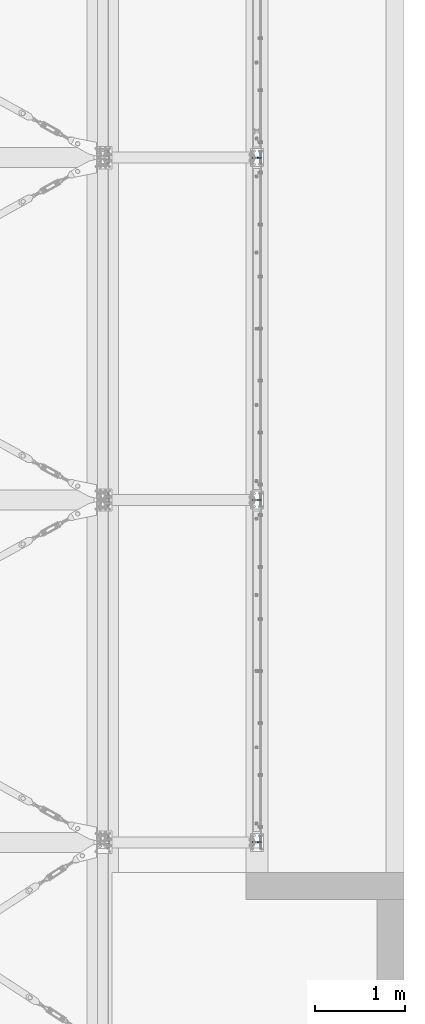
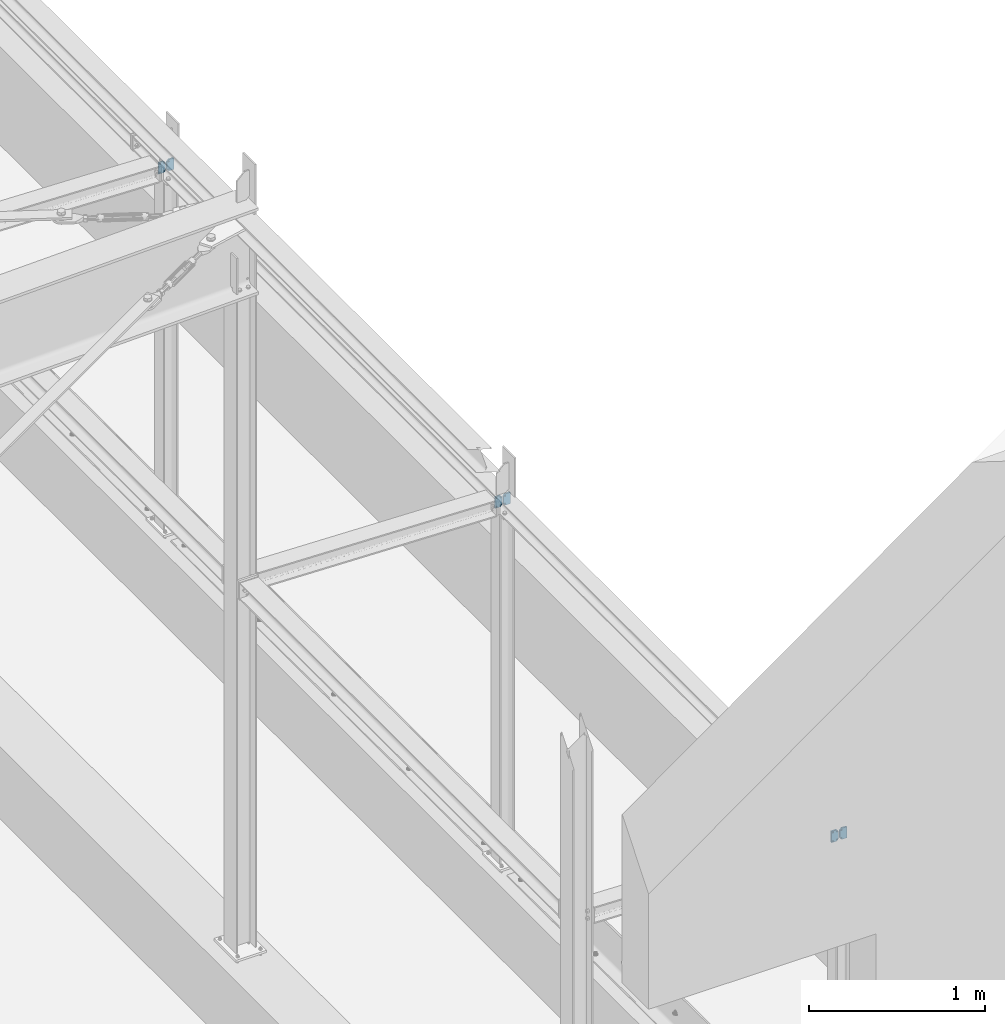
# One storey, part 73 of 476: 6 plates, 30 openings.
"""IFC2X3 building model written with IfcOpenShell, lengths in millimetres."""

from ifc_helpers import new_model, entity, si_unit, converted_unit, point, frame, frame_2d, origin, origin_with_axes, origin_2d_with_axis, place, context, project, spatial, polyline, circle_curve, line_curve, trimmed, segment, composite_curve, circle, outline, extrude, material, layer, layer_set, element, save


model = new_model("IFC2X3")

# Units and contexts
model_context = context("Model", 3, precision=1e-09, world=origin_with_axes())
ifc_project = project(units=[si_unit("LENGTHUNIT", "METRE", prefix="MILLI"), si_unit("AREAUNIT", "SQUARE_METRE"), si_unit("VOLUMEUNIT", "CUBIC_METRE"), converted_unit("PLANEANGLEUNIT", "DEGREE", entity("IfcPlaneAngleMeasure", 0.01745329), si_unit("PLANEANGLEUNIT", "RADIAN"), dimensions=[0, 0, 0, 0, 0, 0, 0])], contexts=[model_context])

# Site, building, storey
site_placement = place(None, origin_with_axes())
site = spatial("IfcSite", under=ifc_project, at=site_placement, Name="mKR Teilneubau & Sanierung BA1 - Ostfildern", CompositionType="ELEMENT")
building_placement = place(site_placement, origin_with_axes())
building = spatial("IfcBuilding", under=site, at=building_placement, Name="Struktur 1", CompositionType="ELEMENT")
storey_placement = place(building_placement, origin_with_axes())
storey = spatial("IfcBuildingStorey", under=building, at=storey_placement, Name="Default Storey", CompositionType="ELEMENT", Elevation=0.0)

# Plate, openings
ifc_material = material(Name="S235JR")
ifc_layer = layer(ifc_material, 10.0)
ifc_layer_set = layer_set([ifc_layer], Name="S235JR")
plate_1_placement = place(None, frame((23687.608764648, -13590.67387897, 3057.0), z_axis=(0.0, 1.0, 0.0), x_axis=(1.0, 0.0, 0.0)))
plate_1 = element("IfcPlate", 1, at=plate_1_placement, inside=storey, material=ifc_layer_set, Name="Stiffener#2", ObjectType="Stiffener#2", context=model_context, shape_type="SweptSolid", body=[
    extrude(outline(polyline([(0.0, 0.0), (46.0, 0.0), (46.0, 78.0), (0.0, 78.0), (0.0, 0.0)])), origin_with_axes(), (0.0, 0.0, 1.0), 10.0),
])
opening_1_placement = place(plate_1_placement, frame((0.0, 0.0, -0.01), z_axis=(0.0, 0.0, 1.0), x_axis=(1.0, 0.0, 0.0)))
element("IfcOpeningElement", 2, at=opening_1_placement, cuts=plate_1, ObjectType="Opening", context=model_context, shape_type="SweptSolid", body=[
    extrude(outline(composite_curve([segment(trimmed(line_curve((0.0, 0.0), (1.0, 0.0), 13.0), [point((0.0, 0.0))], [point((13.0, 0.0))], True, "CARTESIAN"), True, "CONTINUOUS"), segment(trimmed(circle_curve(frame_2d((13.0, 13.0), x_axis=(-1.0, 0.0)), 13.0), [point((13.0, 0.0))], [point((0.0, 13.0))], False, "CARTESIAN"), True, "CONTINUOUS"), segment(trimmed(line_curve((0.0, 13.0), (0.0, -1.0), 13.0), [point((0.0, 13.0))], [point((0.0, 0.0))], True, "CARTESIAN"), True, "CONTINUOUS")], self_intersect=False)), origin(), (0.0, 0.0, 1.0), 10.02),
])
opening_2_placement = place(plate_1_placement, frame((0.0, 0.0, -0.01), z_axis=(0.0, 0.0, 1.0), x_axis=(1.0, 0.0, 0.0)))
element("IfcOpeningElement", 3, at=opening_2_placement, cuts=plate_1, ObjectType="Opening", context=model_context, shape_type="SweptSolid", body=[
    extrude(outline(composite_curve([segment(trimmed(line_curve((0.0, 78.0), (0.0, -1.0), 13.0), [point((0.0, 78.0))], [point((0.0, 65.0))], True, "CARTESIAN"), True, "CONTINUOUS"), segment(trimmed(circle_curve(frame_2d((13.0, 65.0), x_axis=(-1.0, 0.0)), 13.0), [point((0.0, 65.0))], [point((13.0, 78.0))], False, "CARTESIAN"), True, "CONTINUOUS"), segment(trimmed(line_curve((13.0, 78.0), (-1.0, 0.0), 13.0), [point((13.0, 78.0))], [point((0.0, 78.0))], True, "CARTESIAN"), True, "CONTINUOUS")], self_intersect=False)), origin(), (0.0, 0.0, 1.0), 10.02),
])
opening_3_placement = place(plate_1_placement, frame((10.5, 67.0, -0.5), z_axis=(0.0, 0.0, 1.0), x_axis=(0.0, 1.0, 0.0)))
element("IfcOpeningElement", 4, at=opening_3_placement, cuts=plate_1, ObjectType="Opening", context=model_context, shape_type="SweptSolid", body=[
    extrude(circle(Radius=5.001, at=origin_2d_with_axis()), origin(), (0.0, 0.0, 1.0), 11.0),
])
opening_4_placement = place(plate_1_placement, frame((10.5, 11.0, -0.5), z_axis=(0.0, 0.0, 1.0), x_axis=(0.0, 1.0, 0.0)))
element("IfcOpeningElement", 5, at=opening_4_placement, cuts=plate_1, ObjectType="Opening", context=model_context, shape_type="SweptSolid", body=[
    extrude(circle(Radius=5.001, at=origin_2d_with_axis()), origin(), (0.0, 0.0, 1.0), 11.0),
])

plate_2_placement = place(None, frame((23679.608764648, -13580.67387897, 3057.0), z_axis=(0.0, -1.0, 0.0), x_axis=(-1.0, 0.0, 0.0)))
plate_2 = element("IfcPlate", 6, at=plate_2_placement, inside=storey, material=ifc_layer_set, Name="Stiffener#1", ObjectType="Stiffener#1", context=model_context, shape_type="SweptSolid", body=[
    extrude(outline(polyline([(0.0, 0.0), (46.0, 0.0), (46.0, 78.0), (0.0, 78.0), (0.0, 0.0)])), origin_with_axes(), (0.0, 0.0, 1.0), 10.0),
])
opening_5_placement = place(plate_2_placement, frame((0.0, 0.0, -0.01), z_axis=(0.0, 0.0, 1.0), x_axis=(1.0, 0.0, 0.0)))
element("IfcOpeningElement", 7, at=opening_5_placement, cuts=plate_2, ObjectType="Opening", context=model_context, shape_type="SweptSolid", body=[
    extrude(outline(composite_curve([segment(trimmed(line_curve((0.0, 0.0), (1.0, 0.0), 13.0), [point((0.0, 0.0))], [point((13.0, 0.0))], True, "CARTESIAN"), True, "CONTINUOUS"), segment(trimmed(circle_curve(frame_2d((13.0, 13.0), x_axis=(-1.0, 0.0)), 13.0), [point((13.0, 0.0))], [point((0.0, 13.0))], False, "CARTESIAN"), True, "CONTINUOUS"), segment(trimmed(line_curve((0.0, 13.0), (0.0, -1.0), 13.0), [point((0.0, 13.0))], [point((0.0, 0.0))], True, "CARTESIAN"), True, "CONTINUOUS")], self_intersect=False)), origin(), (0.0, 0.0, 1.0), 10.02),
])
opening_6_placement = place(plate_2_placement, frame((0.0, 0.0, -0.01), z_axis=(0.0, 0.0, 1.0), x_axis=(1.0, 0.0, 0.0)))
element("IfcOpeningElement", 8, at=opening_6_placement, cuts=plate_2, ObjectType="Opening", context=model_context, shape_type="SweptSolid", body=[
    extrude(outline(composite_curve([segment(trimmed(line_curve((0.0, 78.0), (0.0, -1.0), 13.0), [point((0.0, 78.0))], [point((0.0, 65.0))], True, "CARTESIAN"), True, "CONTINUOUS"), segment(trimmed(circle_curve(frame_2d((13.0, 65.0), x_axis=(-1.0, 0.0)), 13.0), [point((0.0, 65.0))], [point((13.0, 78.0))], False, "CARTESIAN"), True, "CONTINUOUS"), segment(trimmed(line_curve((13.0, 78.0), (-1.0, 0.0), 13.0), [point((13.0, 78.0))], [point((0.0, 78.0))], True, "CARTESIAN"), True, "CONTINUOUS")], self_intersect=False)), origin(), (0.0, 0.0, 1.0), 10.02),
])
opening_7_placement = place(plate_2_placement, frame((10.5, 11.0, 10.5), z_axis=(0.0, 0.0, -1.0), x_axis=(0.0, 1.0, 0.0)))
element("IfcOpeningElement", 9, at=opening_7_placement, cuts=plate_2, ObjectType="Opening", context=model_context, shape_type="SweptSolid", body=[
    extrude(circle(Radius=5.001, at=origin_2d_with_axis()), origin(), (0.0, 0.0, 1.0), 11.0),
])
opening_8_placement = place(plate_2_placement, frame((40.5, 11.0, 10.5), z_axis=(0.0, 0.0, -1.0), x_axis=(0.0, 1.0, 0.0)))
element("IfcOpeningElement", 10, at=opening_8_placement, cuts=plate_2, ObjectType="Opening", context=model_context, shape_type="SweptSolid", body=[
    extrude(circle(Radius=5.001, at=frame_2d((-3.0, -3.0), x_axis=(1.0, 0.0))), origin(), (0.0, 0.0, 1.0), 11.0),
])
opening_9_placement = place(plate_2_placement, frame((37.5, 75.001, 10.5), z_axis=(0.0, 0.0, 1.0), x_axis=(1.0, 0.0, 0.0)))
element("IfcOpeningElement", 11, at=opening_9_placement, cuts=plate_2, ObjectType="Opening", context=model_context, shape_type="SweptSolid", body=[
    extrude(circle(Radius=5.001, at=frame_2d((0.0, -5.001), x_axis=(1.0, 0.0))), origin(), (0.0, 0.0, -1.0), 11.0),
])
opening_10_placement = place(plate_2_placement, frame((10.5, 67.0, 10.5), z_axis=(0.0, 0.0, -1.0), x_axis=(0.0, 1.0, 0.0)))
element("IfcOpeningElement", 12, at=opening_10_placement, cuts=plate_2, ObjectType="Opening", context=model_context, shape_type="SweptSolid", body=[
    extrude(circle(Radius=5.001, at=origin_2d_with_axis()), origin(), (0.0, 0.0, 1.0), 11.0),
])

plate_3_placement = place(None, frame((23687.608764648, -17410.67387897, 3057.0), z_axis=(0.0, 1.0, 0.0), x_axis=(1.0, 0.0, 0.0)))
plate_3 = element("IfcPlate", 13, at=plate_3_placement, inside=storey, material=ifc_layer_set, Name="Stiffener#2", ObjectType="Stiffener#2", context=model_context, shape_type="SweptSolid", body=[
    extrude(outline(polyline([(0.0, 0.0), (46.0, 0.0), (46.0, 78.0), (0.0, 78.0), (0.0, 0.0)])), origin_with_axes(), (0.0, 0.0, 1.0), 10.0),
])
opening_11_placement = place(plate_3_placement, frame((0.0, 0.0, -0.01), z_axis=(0.0, 0.0, 1.0), x_axis=(1.0, 0.0, 0.0)))
element("IfcOpeningElement", 14, at=opening_11_placement, cuts=plate_3, ObjectType="Opening", context=model_context, shape_type="SweptSolid", body=[
    extrude(outline(composite_curve([segment(trimmed(line_curve((0.0, 0.0), (1.0, 0.0), 13.0), [point((0.0, 0.0))], [point((13.0, 0.0))], True, "CARTESIAN"), True, "CONTINUOUS"), segment(trimmed(circle_curve(frame_2d((13.0, 13.0), x_axis=(-1.0, 0.0)), 13.0), [point((13.0, 0.0))], [point((0.0, 13.0))], False, "CARTESIAN"), True, "CONTINUOUS"), segment(trimmed(line_curve((0.0, 13.0), (0.0, -1.0), 13.0), [point((0.0, 13.0))], [point((0.0, 0.0))], True, "CARTESIAN"), True, "CONTINUOUS")], self_intersect=False)), origin(), (0.0, 0.0, 1.0), 10.02),
])
opening_12_placement = place(plate_3_placement, frame((0.0, 0.0, -0.01), z_axis=(0.0, 0.0, 1.0), x_axis=(1.0, 0.0, 0.0)))
element("IfcOpeningElement", 15, at=opening_12_placement, cuts=plate_3, ObjectType="Opening", context=model_context, shape_type="SweptSolid", body=[
    extrude(outline(composite_curve([segment(trimmed(line_curve((0.0, 78.0), (0.0, -1.0), 13.0), [point((0.0, 78.0))], [point((0.0, 65.0))], True, "CARTESIAN"), True, "CONTINUOUS"), segment(trimmed(circle_curve(frame_2d((13.0, 65.0), x_axis=(-1.0, 0.0)), 13.0), [point((0.0, 65.0))], [point((13.0, 78.0))], False, "CARTESIAN"), True, "CONTINUOUS"), segment(trimmed(line_curve((13.0, 78.0), (-1.0, 0.0), 13.0), [point((13.0, 78.0))], [point((0.0, 78.0))], True, "CARTESIAN"), True, "CONTINUOUS")], self_intersect=False)), origin(), (0.0, 0.0, 1.0), 10.02),
])
opening_13_placement = place(plate_3_placement, frame((10.5, 11.0, -0.5), z_axis=(0.0, 0.0, 1.0), x_axis=(0.0, 1.0, 0.0)))
element("IfcOpeningElement", 16, at=opening_13_placement, cuts=plate_3, ObjectType="Opening", context=model_context, shape_type="SweptSolid", body=[
    extrude(circle(Radius=5.001, at=origin_2d_with_axis()), origin(), (0.0, 0.0, 1.0), 11.0),
])
opening_14_placement = place(plate_3_placement, frame((10.5, 67.0, -0.5), z_axis=(0.0, 0.0, 1.0), x_axis=(0.0, 1.0, 0.0)))
element("IfcOpeningElement", 17, at=opening_14_placement, cuts=plate_3, ObjectType="Opening", context=model_context, shape_type="SweptSolid", body=[
    extrude(circle(Radius=5.001, at=origin_2d_with_axis()), origin(), (0.0, 0.0, 1.0), 11.0),
])

plate_4_placement = place(None, frame((23679.608764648, -17400.67387897, 3057.0), z_axis=(0.0, -1.0, 0.0), x_axis=(-1.0, 0.0, 0.0)))
plate_4 = element("IfcPlate", 18, at=plate_4_placement, inside=storey, material=ifc_layer_set, Name="Stiffener#1", ObjectType="Stiffener#1", context=model_context, shape_type="SweptSolid", body=[
    extrude(outline(polyline([(0.0, 0.0), (46.0, 0.0), (46.0, 78.0), (0.0, 78.0), (0.0, 0.0)])), origin_with_axes(), (0.0, 0.0, 1.0), 10.0),
])
opening_15_placement = place(plate_4_placement, frame((0.0, 0.0, -0.01), z_axis=(0.0, 0.0, 1.0), x_axis=(1.0, 0.0, 0.0)))
element("IfcOpeningElement", 19, at=opening_15_placement, cuts=plate_4, ObjectType="Opening", context=model_context, shape_type="SweptSolid", body=[
    extrude(outline(composite_curve([segment(trimmed(line_curve((0.0, 0.0), (1.0, 0.0), 13.0), [point((0.0, 0.0))], [point((13.0, 0.0))], True, "CARTESIAN"), True, "CONTINUOUS"), segment(trimmed(circle_curve(frame_2d((13.0, 13.0), x_axis=(-1.0, 0.0)), 13.0), [point((13.0, 0.0))], [point((0.0, 13.0))], False, "CARTESIAN"), True, "CONTINUOUS"), segment(trimmed(line_curve((0.0, 13.0), (0.0, -1.0), 13.0), [point((0.0, 13.0))], [point((0.0, 0.0))], True, "CARTESIAN"), True, "CONTINUOUS")], self_intersect=False)), origin(), (0.0, 0.0, 1.0), 10.02),
])
opening_16_placement = place(plate_4_placement, frame((0.0, 0.0, -0.01), z_axis=(0.0, 0.0, 1.0), x_axis=(1.0, 0.0, 0.0)))
element("IfcOpeningElement", 20, at=opening_16_placement, cuts=plate_4, ObjectType="Opening", context=model_context, shape_type="SweptSolid", body=[
    extrude(outline(composite_curve([segment(trimmed(line_curve((0.0, 78.0), (0.0, -1.0), 13.0), [point((0.0, 78.0))], [point((0.0, 65.0))], True, "CARTESIAN"), True, "CONTINUOUS"), segment(trimmed(circle_curve(frame_2d((13.0, 65.0), x_axis=(-1.0, 0.0)), 13.0), [point((0.0, 65.0))], [point((13.0, 78.0))], False, "CARTESIAN"), True, "CONTINUOUS"), segment(trimmed(line_curve((13.0, 78.0), (-1.0, 0.0), 13.0), [point((13.0, 78.0))], [point((0.0, 78.0))], True, "CARTESIAN"), True, "CONTINUOUS")], self_intersect=False)), origin(), (0.0, 0.0, 1.0), 10.02),
])
opening_17_placement = place(plate_4_placement, frame((10.5, 67.0, 10.5), z_axis=(0.0, 0.0, -1.0), x_axis=(0.0, 1.0, 0.0)))
element("IfcOpeningElement", 21, at=opening_17_placement, cuts=plate_4, ObjectType="Opening", context=model_context, shape_type="SweptSolid", body=[
    extrude(circle(Radius=5.001, at=origin_2d_with_axis()), origin(), (0.0, 0.0, 1.0), 11.0),
])
opening_18_placement = place(plate_4_placement, frame((10.5, 11.0, 10.5), z_axis=(0.0, 0.0, -1.0), x_axis=(0.0, 1.0, 0.0)))
element("IfcOpeningElement", 22, at=opening_18_placement, cuts=plate_4, ObjectType="Opening", context=model_context, shape_type="SweptSolid", body=[
    extrude(circle(Radius=5.001, at=origin_2d_with_axis()), origin(), (0.0, 0.0, 1.0), 11.0),
])
opening_19_placement = place(plate_4_placement, frame((40.5, 11.0, 10.5), z_axis=(0.0, 0.0, -1.0), x_axis=(0.0, 1.0, 0.0)))
element("IfcOpeningElement", 23, at=opening_19_placement, cuts=plate_4, ObjectType="Opening", context=model_context, shape_type="SweptSolid", body=[
    extrude(circle(Radius=5.001, at=frame_2d((-3.0, -3.0), x_axis=(1.0, 0.0))), origin(), (0.0, 0.0, 1.0), 11.0),
])
opening_20_placement = place(plate_4_placement, frame((37.5, 75.001, 10.5), z_axis=(0.0, 0.0, 1.0), x_axis=(1.0, 0.0, 0.0)))
element("IfcOpeningElement", 24, at=opening_20_placement, cuts=plate_4, ObjectType="Opening", context=model_context, shape_type="SweptSolid", body=[
    extrude(circle(Radius=5.001, at=frame_2d((0.0, -5.001), x_axis=(1.0, 0.0))), origin(), (0.0, 0.0, -1.0), 11.0),
])

plate_5_placement = place(None, frame((23687.608764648, -21230.67387897, 3057.0), z_axis=(0.0, 1.0, 0.0), x_axis=(1.0, 0.0, 0.0)))
plate_5 = element("IfcPlate", 25, at=plate_5_placement, inside=storey, material=ifc_layer_set, Name="Stiffener#2", ObjectType="Stiffener#2", context=model_context, shape_type="SweptSolid", body=[
    extrude(outline(polyline([(0.0, 0.0), (46.0, 0.0), (46.0, 78.0), (0.0, 78.0), (0.0, 0.0)])), origin_with_axes(), (0.0, 0.0, 1.0), 10.0),
])
opening_21_placement = place(plate_5_placement, frame((0.0, 0.0, -0.01), z_axis=(0.0, 0.0, 1.0), x_axis=(1.0, 0.0, 0.0)))
element("IfcOpeningElement", 26, at=opening_21_placement, cuts=plate_5, ObjectType="Opening", context=model_context, shape_type="SweptSolid", body=[
    extrude(outline(composite_curve([segment(trimmed(line_curve((0.0, 0.0), (1.0, 0.0), 13.0), [point((0.0, 0.0))], [point((13.0, 0.0))], True, "CARTESIAN"), True, "CONTINUOUS"), segment(trimmed(circle_curve(frame_2d((13.0, 13.0), x_axis=(-1.0, 0.0)), 13.0), [point((13.0, 0.0))], [point((0.0, 13.0))], False, "CARTESIAN"), True, "CONTINUOUS"), segment(trimmed(line_curve((0.0, 13.0), (0.0, -1.0), 13.0), [point((0.0, 13.0))], [point((0.0, 0.0))], True, "CARTESIAN"), True, "CONTINUOUS")], self_intersect=False)), origin(), (0.0, 0.0, 1.0), 10.02),
])
opening_22_placement = place(plate_5_placement, frame((0.0, 0.0, -0.01), z_axis=(0.0, 0.0, 1.0), x_axis=(1.0, 0.0, 0.0)))
element("IfcOpeningElement", 27, at=opening_22_placement, cuts=plate_5, ObjectType="Opening", context=model_context, shape_type="SweptSolid", body=[
    extrude(outline(composite_curve([segment(trimmed(line_curve((0.0, 78.0), (0.0, -1.0), 13.0), [point((0.0, 78.0))], [point((0.0, 65.0))], True, "CARTESIAN"), True, "CONTINUOUS"), segment(trimmed(circle_curve(frame_2d((13.0, 65.0), x_axis=(-1.0, 0.0)), 13.0), [point((0.0, 65.0))], [point((13.0, 78.0))], False, "CARTESIAN"), True, "CONTINUOUS"), segment(trimmed(line_curve((13.0, 78.0), (-1.0, 0.0), 13.0), [point((13.0, 78.0))], [point((0.0, 78.0))], True, "CARTESIAN"), True, "CONTINUOUS")], self_intersect=False)), origin(), (0.0, 0.0, 1.0), 10.02),
])
opening_23_placement = place(plate_5_placement, frame((10.5, 67.0, -0.5), z_axis=(0.0, 0.0, 1.0), x_axis=(0.0, 1.0, 0.0)))
element("IfcOpeningElement", 28, at=opening_23_placement, cuts=plate_5, ObjectType="Opening", context=model_context, shape_type="SweptSolid", body=[
    extrude(circle(Radius=5.001, at=origin_2d_with_axis()), origin(), (0.0, 0.0, 1.0), 11.0),
])
opening_24_placement = place(plate_5_placement, frame((10.5, 11.0, -0.5), z_axis=(0.0, 0.0, 1.0), x_axis=(0.0, 1.0, 0.0)))
element("IfcOpeningElement", 29, at=opening_24_placement, cuts=plate_5, ObjectType="Opening", context=model_context, shape_type="SweptSolid", body=[
    extrude(circle(Radius=5.001, at=origin_2d_with_axis()), origin(), (0.0, 0.0, 1.0), 11.0),
])

plate_6_placement = place(None, frame((23679.608764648, -21220.67387897, 3057.0), z_axis=(0.0, -1.0, 0.0), x_axis=(-1.0, 0.0, 0.0)))
plate_6 = element("IfcPlate", 30, at=plate_6_placement, inside=storey, material=ifc_layer_set, Name="Stiffener#1", ObjectType="Stiffener#1", context=model_context, shape_type="SweptSolid", body=[
    extrude(outline(polyline([(0.0, 0.0), (46.0, 0.0), (46.0, 78.0), (0.0, 78.0), (0.0, 0.0)])), origin_with_axes(), (0.0, 0.0, 1.0), 10.0),
])
opening_25_placement = place(plate_6_placement, frame((0.0, 0.0, -0.01), z_axis=(0.0, 0.0, 1.0), x_axis=(1.0, 0.0, 0.0)))
element("IfcOpeningElement", 31, at=opening_25_placement, cuts=plate_6, ObjectType="Opening", context=model_context, shape_type="SweptSolid", body=[
    extrude(outline(composite_curve([segment(trimmed(line_curve((0.0, 0.0), (1.0, 0.0), 13.0), [point((0.0, 0.0))], [point((13.0, 0.0))], True, "CARTESIAN"), True, "CONTINUOUS"), segment(trimmed(circle_curve(frame_2d((13.0, 13.0), x_axis=(-1.0, 0.0)), 13.0), [point((13.0, 0.0))], [point((0.0, 13.0))], False, "CARTESIAN"), True, "CONTINUOUS"), segment(trimmed(line_curve((0.0, 13.0), (0.0, -1.0), 13.0), [point((0.0, 13.0))], [point((0.0, 0.0))], True, "CARTESIAN"), True, "CONTINUOUS")], self_intersect=False)), origin(), (0.0, 0.0, 1.0), 10.02),
])
opening_26_placement = place(plate_6_placement, frame((0.0, 0.0, -0.01), z_axis=(0.0, 0.0, 1.0), x_axis=(1.0, 0.0, 0.0)))
element("IfcOpeningElement", 32, at=opening_26_placement, cuts=plate_6, ObjectType="Opening", context=model_context, shape_type="SweptSolid", body=[
    extrude(outline(composite_curve([segment(trimmed(line_curve((0.0, 78.0), (0.0, -1.0), 13.0), [point((0.0, 78.0))], [point((0.0, 65.0))], True, "CARTESIAN"), True, "CONTINUOUS"), segment(trimmed(circle_curve(frame_2d((13.0, 65.0), x_axis=(-1.0, 0.0)), 13.0), [point((0.0, 65.0))], [point((13.0, 78.0))], False, "CARTESIAN"), True, "CONTINUOUS"), segment(trimmed(line_curve((13.0, 78.0), (-1.0, 0.0), 13.0), [point((13.0, 78.0))], [point((0.0, 78.0))], True, "CARTESIAN"), True, "CONTINUOUS")], self_intersect=False)), origin(), (0.0, 0.0, 1.0), 10.02),
])
opening_27_placement = place(plate_6_placement, frame((10.5, 11.0, 10.5), z_axis=(0.0, 0.0, -1.0), x_axis=(0.0, 1.0, 0.0)))
element("IfcOpeningElement", 33, at=opening_27_placement, cuts=plate_6, ObjectType="Opening", context=model_context, shape_type="SweptSolid", body=[
    extrude(circle(Radius=5.001, at=origin_2d_with_axis()), origin(), (0.0, 0.0, 1.0), 11.0),
])
opening_28_placement = place(plate_6_placement, frame((40.5, 11.0, 10.5), z_axis=(0.0, 0.0, -1.0), x_axis=(0.0, 1.0, 0.0)))
element("IfcOpeningElement", 34, at=opening_28_placement, cuts=plate_6, ObjectType="Opening", context=model_context, shape_type="SweptSolid", body=[
    extrude(circle(Radius=5.001, at=frame_2d((-3.0, -3.0), x_axis=(1.0, 0.0))), origin(), (0.0, 0.0, 1.0), 11.0),
])
opening_29_placement = place(plate_6_placement, frame((37.5, 75.001, 10.5), z_axis=(0.0, 0.0, 1.0), x_axis=(1.0, 0.0, 0.0)))
element("IfcOpeningElement", 35, at=opening_29_placement, cuts=plate_6, ObjectType="Opening", context=model_context, shape_type="SweptSolid", body=[
    extrude(circle(Radius=5.001, at=frame_2d((0.0, -5.001), x_axis=(1.0, 0.0))), origin(), (0.0, 0.0, -1.0), 11.0),
])
opening_30_placement = place(plate_6_placement, frame((10.5, 67.0, 10.5), z_axis=(0.0, 0.0, -1.0), x_axis=(0.0, 1.0, 0.0)))
element("IfcOpeningElement", 36, at=opening_30_placement, cuts=plate_6, ObjectType="Opening", context=model_context, shape_type="SweptSolid", body=[
    extrude(circle(Radius=5.001, at=origin_2d_with_axis()), origin(), (0.0, 0.0, 1.0), 11.0),
])

save(model, "model.ifc")
